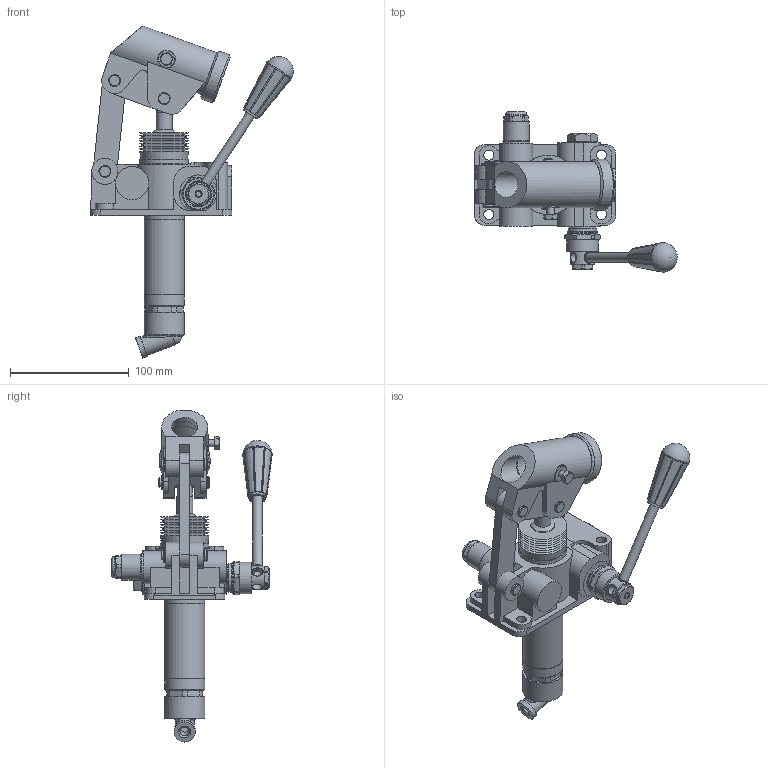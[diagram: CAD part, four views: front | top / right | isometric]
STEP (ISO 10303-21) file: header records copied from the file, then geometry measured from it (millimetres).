
FILE_DESCRIPTION(/* description */ ('Unknown'),/* implementation_level */ '2;1');
FILE_NAME(/* name */ 'HPTCV-VS',/* time_stamp */ '2024-11-28T11:37:42+01:00',/* author */ ('Unknown'),/* organization */ ('Unknown'),/* preprocessor_version */ 'ST-DEVELOPER v19.4',/* originating_system */ 'Solid Edge',/* authorisation */ 'Unknown');
FILE_SCHEMA (('AUTOMOTIVE_DESIGN {1 0 10303 214 3 1 1}'));
Length unit declared in the file: millimetre
Products named in the file (1): HPTCV-VS
Bounding box: 170.98 x 135.33 x 280.08 mm (x, y, z)
Volume: 529550 mm3; surface area: 146507.7 mm2
Topology: 9 solids, 9 shells, 2228 faces, 6295 edges, 4124 vertices
Faces by surface type: plane 1764, cylinder 248, cone 108, torus 83, bspline 18, sphere 7
Full cylindrical faces by diameter (mm): 4 x6, 5 x1, 5.1 x4, 5.994 x5, 7.792 x6, 7.992 x3, 8 x5, 8.092 x4, 8.1 x5, 8.4 x1, 8.5 x4, 8.566 x2, 8.7 x1, 9.491 x1, 9.728 x1, 9.99 x3, 10 x1, 10.5 x1, 11 x2, 12.5 x1, 12.8 x1, 13.6 x1, 13.7 x1, 13.986 x1, 14 x3, 14.95 x7, 16 x2, 16.6 x2, 17 x1, 18 x3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
Entity records: 87504 total; most frequent: CARTESIAN_POINT 15941, ORIENTED_EDGE 11858, DIRECTION 11011, EDGE_CURVE 5929, LINE 4711, VECTOR 4711, VERTEX_POINT 3994, AXIS2_PLACEMENT_3D 3150
